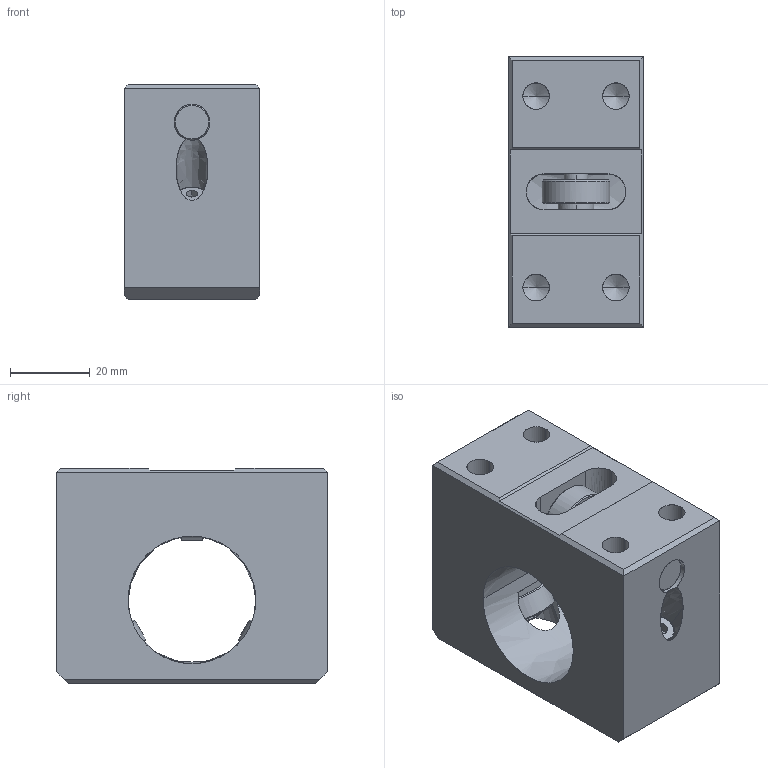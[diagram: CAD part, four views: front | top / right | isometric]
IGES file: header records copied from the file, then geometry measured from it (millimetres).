
Global section: file name: No Iges File Name specified; native system: AutoDesk Inventor R10; preprocessor: AutoDesk Inventor Iges Exporter R10; author: No Author specified; organization: No Organization specified; date: 20101222.161358; units: millimetre
Bounding box: 34 x 68 x 54 mm (x, y, z)
Surface area: 23623.6 mm2 (no closed solid volume)
Topology: 0 solids, 0 shells, 147 faces, 1092 edges, 1078 vertices
Faces by surface type: bspline 147
